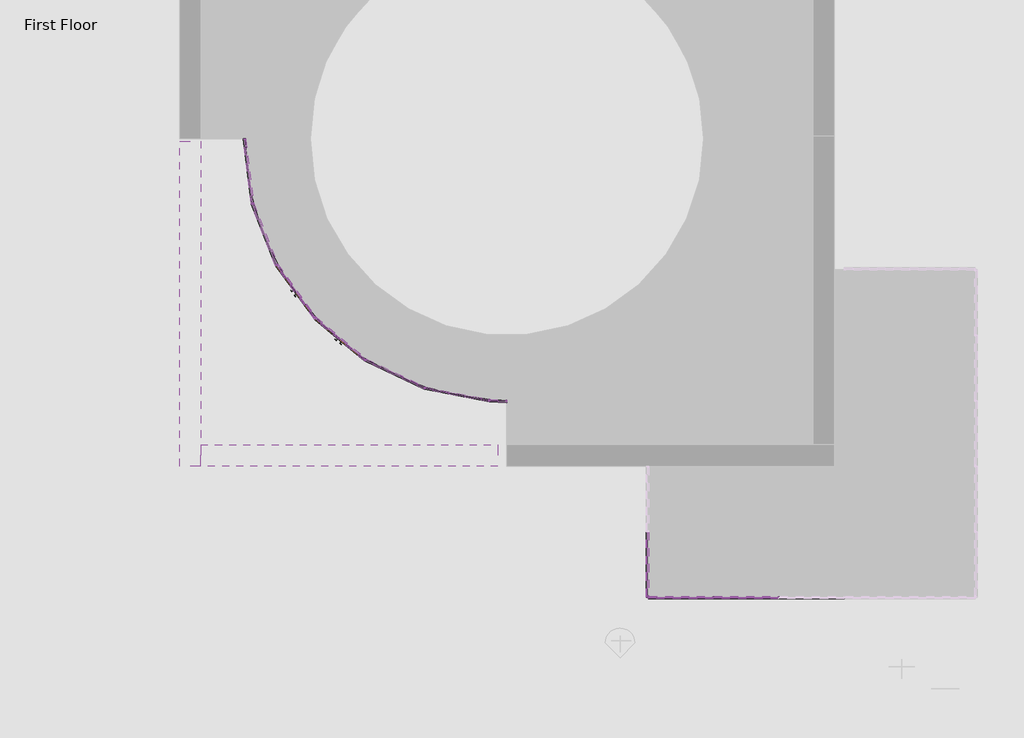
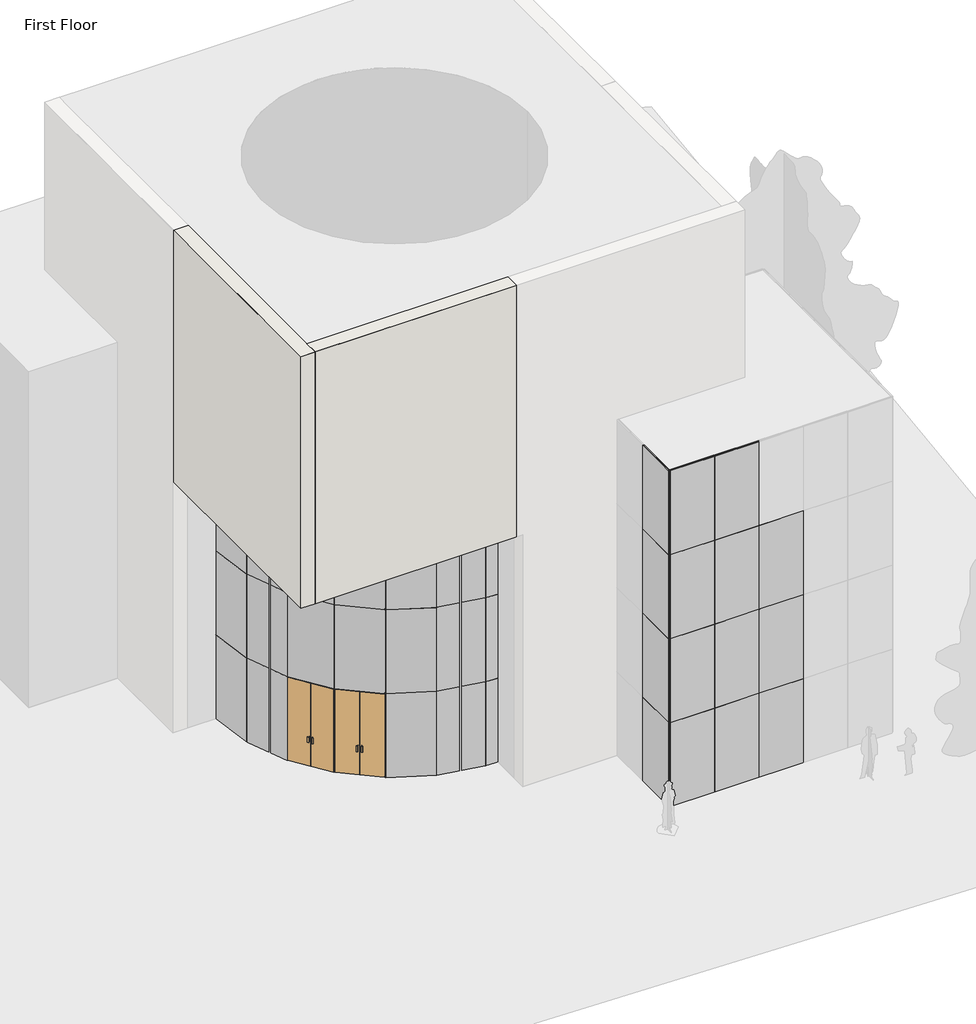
# One storey, part 1 of 4: 83 members, 34 plates, 2 doors, 2 walls.
"""IFC4 building model written with IfcOpenShell, lengths in millimetres."""

from ifc_helpers import new_model, si_unit, frame, origin, place, context, project, spatial, polyline, outline, extrude, faceted_brep, transform, mapped, element, save
from components import curtain_wall_dbl_glass_curtain_wall_dbl_glass_35f7ff88, member_6604d1e0, member_9fd3d903, member_5e617a80, member_cbdb9076, member_74941792, member_7e523723, member_113f7001, member_5d503216, member_77cb5569, member_e23d1186, member_648f3f05, member_8003fc1d, member_cef3a68d, system_panel_glazed_9c75bc08, system_panel_glazed_737b14db

model = new_model("IFC4")

# Units and contexts
model_context = context("Model", 3, world=origin())
ifc_project = project(units=[si_unit("LENGTHUNIT", "METRE", prefix="MILLI")], contexts=[model_context])

# Site, building, storey
site = spatial("IfcSite", under=ifc_project)
building = spatial("IfcBuilding", under=site)
storey = spatial("IfcBuildingStorey", under=building, Name="First Floor", Elevation=0.0)

# Doors
placement = place(None, origin())
curtain_wall_dbl_glass_curtain_wall_dbl_glass_shape = curtain_wall_dbl_glass_curtain_wall_dbl_glass_35f7ff88(model_context)
element("IfcDoor", 1, ObjectType="Curtain Wall Dbl Glass : Curtain Wall Dbl Glass", at=placement, inside=storey, context=model_context, shape_type="MappedRepresentation", body=[
    mapped(curtain_wall_dbl_glass_curtain_wall_dbl_glass_shape, transform((-7598.2638428, -6156.4665271, 25.4), x_axis=(0.5864257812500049, -0.8100029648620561, 0.0), y_axis=(0.8100029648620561, 0.5864257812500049, 0.0), z_axis=(0.0, 0.0, 1.0))),
])
element("IfcDoor", 2, ObjectType="Curtain Wall Dbl Glass : Curtain Wall Dbl Glass", at=placement, inside=storey, context=model_context, shape_type="MappedRepresentation", body=[
    mapped(curtain_wall_dbl_glass_curtain_wall_dbl_glass_shape, transform((-6565.4199097, -7260.7849412, 25.4), x_axis=(0.7690124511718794, -0.6392337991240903, 0.0), y_axis=(0.6392337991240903, 0.7690124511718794, 0.0), z_axis=(0.0, 0.0, 1.0))),
])

# Members
member_shape = member_6604d1e0(model_context)
element("IfcMember", 3, ObjectType="Rectangular Mullion : 1\" Square", at=placement, inside=storey, context=model_context, shape_type="MappedRepresentation", body=[
    mapped(member_shape, transform((2120.1240488, -13277.6534489, 0.0), x_axis=(0.0, 0.0, -1.0), y_axis=(0.0, -1.0, 0.0), z_axis=(-1.0, 0.0, 0.0))),
])
element("IfcMember", 4, ObjectType="Rectangular Mullion : 1\" Square", at=placement, inside=storey, context=model_context, shape_type="MappedRepresentation", body=[
    mapped(member_shape, transform((3644.1240488, -13277.6534489, 0.0), x_axis=(0.0, 0.0, -1.0), y_axis=(0.0, -1.0, 0.0), z_axis=(-1.0, 0.0, 0.0))),
])
member_2_shape = member_9fd3d903(model_context)
element("IfcMember", 5, ObjectType="Rectangular Mullion : 1\" Square", at=placement, inside=storey, context=model_context, shape_type="MappedRepresentation", body=[
    mapped(member_2_shape, transform((3618.7240488, -13277.6534489, 9144.0), x_axis=(0.0, 0.0, 1.0), y_axis=(0.0, -1.0, 0.0), z_axis=(1.0, 0.0, 0.0))),
])
element("IfcMember", 6, ObjectType="Rectangular Mullion : 1\" Square", at=placement, inside=storey, context=model_context, shape_type="MappedRepresentation", body=[
    mapped(member_2_shape, transform((3618.7240488, -13277.6534489, 6096.0), x_axis=(0.0, 0.0, 1.0), y_axis=(0.0, -1.0, 0.0), z_axis=(1.0, 0.0, 0.0))),
])
element("IfcMember", 7, ObjectType="Rectangular Mullion : 1\" Square", at=placement, inside=storey, context=model_context, shape_type="MappedRepresentation", body=[
    mapped(member_2_shape, transform((3618.7240488, -13277.6534489, 3048.0), x_axis=(0.0, 0.0, 1.0), y_axis=(0.0, -1.0, 0.0), z_axis=(1.0, 0.0, 0.0))),
])
member_3_shape = member_5e617a80(model_context)
element("IfcMember", 8, ObjectType="Rectangular Mullion : 1\" Square", at=placement, inside=storey, context=model_context, shape_type="MappedRepresentation", body=[
    mapped(member_3_shape, transform((2094.7240488, -13277.6534489, 9144.0), x_axis=(0.0, 0.0, 1.0), y_axis=(0.0, -1.0, 0.0), z_axis=(1.0, 0.0, 0.0))),
])
element("IfcMember", 9, ObjectType="Rectangular Mullion : 1\" Square", at=placement, inside=storey, context=model_context, shape_type="MappedRepresentation", body=[
    mapped(member_3_shape, transform((2094.7240488, -13277.6534489, 6096.0), x_axis=(0.0, 0.0, 1.0), y_axis=(0.0, -1.0, 0.0), z_axis=(1.0, 0.0, 0.0))),
])
element("IfcMember", 10, ObjectType="Rectangular Mullion : 1\" Square", at=placement, inside=storey, context=model_context, shape_type="MappedRepresentation", body=[
    mapped(member_3_shape, transform((2094.7240488, -13277.6534489, 3048.0), x_axis=(0.0, 0.0, 1.0), y_axis=(0.0, -1.0, 0.0), z_axis=(1.0, 0.0, 0.0))),
])
element("IfcMember", 11, ObjectType="Rectangular Mullion : 1\" Square", at=placement, inside=storey, context=model_context, shape_type="MappedRepresentation", body=[
    mapped(member_3_shape, transform((583.4240488, -13252.2534489, 6096.0), x_axis=(0.0, 0.0, 1.0), y_axis=(-1.0, 0.0, 0.0), z_axis=(0.0, -1.0, 0.0))),
])
element("IfcMember", 12, ObjectType="Rectangular Mullion : 1\" Square", at=placement, inside=storey, context=model_context, shape_type="MappedRepresentation", body=[
    mapped(member_3_shape, transform((583.4240488, -13252.2534489, 9144.0), x_axis=(0.0, 0.0, 1.0), y_axis=(-1.0, 0.0, 0.0), z_axis=(0.0, -1.0, 0.0))),
])
element("IfcMember", 13, ObjectType="Rectangular Mullion : 1\" Square", at=placement, inside=storey, context=model_context, shape_type="MappedRepresentation", body=[
    mapped(member_3_shape, transform((583.4240488, -13252.2534489, 3048.0), x_axis=(0.0, 0.0, 1.0), y_axis=(-1.0, 0.0, 0.0), z_axis=(0.0, -1.0, 0.0))),
])
member_4_shape = member_cbdb9076(model_context)
element("IfcMember", 14, ObjectType="Rectangular Mullion : 1\" Square", at=placement, inside=storey, context=model_context, shape_type="MappedRepresentation", body=[
    mapped(member_4_shape, transform((3631.4240488, -13277.6534489, 9144.0), x_axis=(1.0, 0.0, 0.0), y_axis=(0.0, -1.0, 0.0), z_axis=(0.0, 0.0, -1.0))),
])
element("IfcMember", 15, ObjectType="Rectangular Mullion : 1\" Square", at=placement, inside=storey, context=model_context, shape_type="MappedRepresentation", body=[
    mapped(member_4_shape, transform((2107.4240488, -13277.6534489, 9144.0), x_axis=(1.0, 0.0, 0.0), y_axis=(0.0, -1.0, 0.0), z_axis=(0.0, 0.0, -1.0))),
])
element("IfcMember", 16, ObjectType="Rectangular Mullion : 1\" Square", at=placement, inside=storey, context=model_context, shape_type="MappedRepresentation", body=[
    mapped(member_4_shape, transform((-5979.4324219, -7747.8810962, 6096.0), x_axis=(0.842885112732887, -0.538093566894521, 0.0), y_axis=(-0.538093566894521, -0.842885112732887, 0.0), z_axis=(0.0, 0.0, -1.0))),
])
element("IfcMember", 17, ObjectType="Rectangular Mullion : 1\" Square", at=placement, inside=storey, context=model_context, shape_type="MappedRepresentation", body=[
    mapped(member_4_shape, transform((-7151.4073975, -6773.6887863, 6096.0), x_axis=(0.683076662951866, -0.7303466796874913, 0.0), y_axis=(-0.7303466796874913, -0.683076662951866, 0.0), z_axis=(0.0, 0.0, -1.0))),
])
element("IfcMember", 18, ObjectType="Rectangular Mullion : 1\" Square", at=placement, inside=storey, context=model_context, shape_type="MappedRepresentation", body=[
    mapped(member_4_shape, transform((-8045.1202881, -5539.2442678, 6096.0), x_axis=(0.4805759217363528, -0.8769531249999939, 0.0), y_axis=(-0.8769531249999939, -0.4805759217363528, 0.0), z_axis=(0.0, 0.0, -1.0))),
])
element("IfcMember", 19, ObjectType="Rectangular Mullion : 1\" Square", at=placement, inside=storey, context=model_context, shape_type="MappedRepresentation", body=[
    mapped(member_4_shape, transform((-8604.7140381, -4121.7003232, 6096.0), x_axis=(0.24803918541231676, -0.9687499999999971, 0.0), y_axis=(-0.9687499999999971, -0.24803918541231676, 0.0), z_axis=(0.0, 0.0, -1.0))),
])
element("IfcMember", 20, ObjectType="Rectangular Mullion : 1\" Square", at=placement, inside=storey, context=model_context, shape_type="MappedRepresentation", body=[
    mapped(member_4_shape, transform((-3106.5033128, -8692.0322144, 6096.0), x_axis=(0.9977655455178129, -0.06681254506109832, 0.0), y_axis=(-0.06681254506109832, -0.9977655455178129, 0.0), z_axis=(0.0, 0.0, -1.0))),
])
element("IfcMember", 21, ObjectType="Rectangular Mullion : 1\" Square", at=placement, inside=storey, context=model_context, shape_type="MappedRepresentation", body=[
    mapped(member_4_shape, transform((-4602.4437973, -8400.9341781, 6096.0), x_axis=(0.9500132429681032, -0.3122096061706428, 0.0), y_axis=(-0.3122096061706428, -0.9500132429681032, 0.0), z_axis=(0.0, 0.0, -1.0))),
])
element("IfcMember", 22, ObjectType="Rectangular Mullion : 1\" Square", at=placement, inside=storey, context=model_context, shape_type="MappedRepresentation", body=[
    mapped(member_4_shape, transform((3631.4240488, -13277.6534489, 6096.0), x_axis=(1.0, 0.0, 0.0), y_axis=(0.0, -1.0, 0.0), z_axis=(0.0, 0.0, -1.0))),
])
element("IfcMember", 23, ObjectType="Rectangular Mullion : 1\" Square", at=placement, inside=storey, context=model_context, shape_type="MappedRepresentation", body=[
    mapped(member_4_shape, transform((3631.4240488, -13277.6534489, 3048.0), x_axis=(1.0, 0.0, 0.0), y_axis=(0.0, -1.0, 0.0), z_axis=(0.0, 0.0, -1.0))),
])
element("IfcMember", 24, ObjectType="Rectangular Mullion : 1\" Square", at=placement, inside=storey, context=model_context, shape_type="MappedRepresentation", body=[
    mapped(member_4_shape, transform((2107.4240488, -13277.6534489, 6096.0), x_axis=(1.0, 0.0, 0.0), y_axis=(0.0, -1.0, 0.0), z_axis=(0.0, 0.0, -1.0))),
])
element("IfcMember", 25, ObjectType="Rectangular Mullion : 1\" Square", at=placement, inside=storey, context=model_context, shape_type="MappedRepresentation", body=[
    mapped(member_4_shape, transform((2107.4240488, -13277.6534489, 3048.0), x_axis=(1.0, 0.0, 0.0), y_axis=(0.0, -1.0, 0.0), z_axis=(0.0, 0.0, -1.0))),
])
element("IfcMember", 26, ObjectType="Rectangular Mullion : 1\" Square", at=placement, inside=storey, context=model_context, shape_type="MappedRepresentation", body=[
    mapped(member_4_shape, transform((-4602.4437973, -8400.9341781, 3048.0), x_axis=(0.9500132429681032, -0.3122096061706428, 0.0), y_axis=(-0.3122096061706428, -0.9500132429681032, 0.0), z_axis=(0.0, 0.0, -1.0))),
])
element("IfcMember", 27, ObjectType="Rectangular Mullion : 1\" Square", at=placement, inside=storey, context=model_context, shape_type="MappedRepresentation", body=[
    mapped(member_4_shape, transform((-5979.4324219, -7747.8810962, 3048.0), x_axis=(0.8428851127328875, -0.5380935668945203, 0.0), y_axis=(-0.5380935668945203, -0.8428851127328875, 0.0), z_axis=(0.0, 0.0, -1.0))),
])
element("IfcMember", 28, ObjectType="Rectangular Mullion : 1\" Square", at=placement, inside=storey, context=model_context, shape_type="MappedRepresentation", body=[
    mapped(member_4_shape, transform((-7151.4073975, -6773.6887863, 3048.0), x_axis=(0.683076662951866, -0.7303466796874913, 0.0), y_axis=(-0.7303466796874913, -0.683076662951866, 0.0), z_axis=(0.0, 0.0, -1.0))),
])
element("IfcMember", 29, ObjectType="Rectangular Mullion : 1\" Square", at=placement, inside=storey, context=model_context, shape_type="MappedRepresentation", body=[
    mapped(member_4_shape, transform((-8045.1202881, -5539.2442678, 3048.0), x_axis=(0.4805759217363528, -0.8769531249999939, 0.0), y_axis=(-0.8769531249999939, -0.4805759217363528, 0.0), z_axis=(0.0, 0.0, -1.0))),
])
element("IfcMember", 30, ObjectType="Rectangular Mullion : 1\" Square", at=placement, inside=storey, context=model_context, shape_type="MappedRepresentation", body=[
    mapped(member_4_shape, transform((-8604.7140381, -4121.7003232, 3048.0), x_axis=(0.24803918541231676, -0.9687499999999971, 0.0), y_axis=(-0.9687499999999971, -0.24803918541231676, 0.0), z_axis=(0.0, 0.0, -1.0))),
])
element("IfcMember", 31, ObjectType="Rectangular Mullion : 1\" Square", at=placement, inside=storey, context=model_context, shape_type="MappedRepresentation", body=[
    mapped(member_4_shape, transform((-3106.5033128, -8692.0322144, 3048.0), x_axis=(0.9977655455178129, -0.06681254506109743, 0.0), y_axis=(-0.06681254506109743, -0.9977655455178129, 0.0), z_axis=(0.0, 0.0, -1.0))),
])
element("IfcMember", 32, ObjectType="Rectangular Mullion : 1\" Square", at=placement, inside=storey, context=model_context, shape_type="MappedRepresentation", body=[
    mapped(member_shape, transform((3618.7240488, -13277.6534489, 12192.0), x_axis=(0.0, 0.0, 1.0), y_axis=(0.0, -1.0, 0.0), z_axis=(1.0, 0.0, 0.0))),
])
member_5_shape = member_74941792(model_context)
element("IfcMember", 33, ObjectType="Rectangular Mullion : 1\" Square", at=placement, inside=storey, context=model_context, shape_type="MappedRepresentation", body=[
    mapped(member_5_shape, transform((608.8240488, -13277.6534489, 0.0), x_axis=(0.0, 0.0, -1.0), y_axis=(0.0, -1.0, 0.0), z_axis=(-1.0, 0.0, 0.0))),
])
element("IfcMember", 34, ObjectType="Rectangular Mullion : 1\" Square", at=placement, inside=storey, context=model_context, shape_type="MappedRepresentation", body=[
    mapped(member_5_shape, transform((2094.7240488, -13277.6534489, 12192.0), x_axis=(0.0, 0.0, 1.0), y_axis=(0.0, -1.0, 0.0), z_axis=(1.0, 0.0, 0.0))),
])
element("IfcMember", 35, ObjectType="Rectangular Mullion : 1\" Square", at=placement, inside=storey, context=model_context, shape_type="MappedRepresentation", body=[
    mapped(member_5_shape, transform((583.4240488, -13252.2534489, 12192.0), x_axis=(0.0, 0.0, 1.0), y_axis=(-1.0, 0.0, 0.0), z_axis=(0.0, -1.0, 0.0))),
])
element("IfcMember", 36, ObjectType="Rectangular Mullion : 1\" Square", at=placement, inside=storey, context=model_context, shape_type="MappedRepresentation", body=[
    mapped(member_4_shape, transform((2107.4240488, -13277.6534489, 0.0), x_axis=(1.0, 0.0, 0.0), y_axis=(0.0, -1.0, 0.0), z_axis=(0.0, 0.0, -1.0))),
])
element("IfcMember", 37, ObjectType="Rectangular Mullion : 1\" Square", at=placement, inside=storey, context=model_context, shape_type="MappedRepresentation", body=[
    mapped(member_4_shape, transform((3631.4240488, -13277.6534489, 0.0), x_axis=(1.0, 0.0, 0.0), y_axis=(0.0, -1.0, 0.0), z_axis=(0.0, 0.0, -1.0))),
])
element("IfcMember", 38, ObjectType="Rectangular Mullion : 1\" Square", at=placement, inside=storey, context=model_context, shape_type="MappedRepresentation", body=[
    mapped(member_4_shape, transform((-8045.1202881, -5539.2442678, 0.0), x_axis=(0.480575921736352, -0.8769531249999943, 0.0), y_axis=(-0.8769531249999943, -0.480575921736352, 0.0), z_axis=(0.0, 0.0, -1.0))),
])
element("IfcMember", 39, ObjectType="Rectangular Mullion : 1\" Square", at=placement, inside=storey, context=model_context, shape_type="MappedRepresentation", body=[
    mapped(member_4_shape, transform((-5979.4324219, -7747.8810962, 0.0), x_axis=(0.8428851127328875, -0.5380935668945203, 0.0), y_axis=(-0.5380935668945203, -0.8428851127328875, 0.0), z_axis=(0.0, 0.0, -1.0))),
])
element("IfcMember", 40, ObjectType="Rectangular Mullion : 1\" Square", at=placement, inside=storey, context=model_context, shape_type="MappedRepresentation", body=[
    mapped(member_4_shape, transform((-7151.4073975, -6773.6887863, 0.0), x_axis=(0.683076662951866, -0.7303466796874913, 0.0), y_axis=(-0.7303466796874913, -0.683076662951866, 0.0), z_axis=(0.0, 0.0, -1.0))),
])
element("IfcMember", 41, ObjectType="Rectangular Mullion : 1\" Square", at=placement, inside=storey, context=model_context, shape_type="MappedRepresentation", body=[
    mapped(member_4_shape, transform((-8604.7140381, -4121.7003232, 0.0), x_axis=(0.24803918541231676, -0.9687499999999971, 0.0), y_axis=(-0.9687499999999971, -0.24803918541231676, 0.0), z_axis=(0.0, 0.0, -1.0))),
])
element("IfcMember", 42, ObjectType="Rectangular Mullion : 1\" Square", at=placement, inside=storey, context=model_context, shape_type="MappedRepresentation", body=[
    mapped(member_4_shape, transform((-3106.5033128, -8692.0322144, 0.0), x_axis=(0.9977655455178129, -0.06681254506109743, 0.0), y_axis=(-0.06681254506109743, -0.9977655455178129, 0.0), z_axis=(0.0, 0.0, -1.0))),
])
element("IfcMember", 43, ObjectType="Rectangular Mullion : 1\" Square", at=placement, inside=storey, context=model_context, shape_type="MappedRepresentation", body=[
    mapped(member_4_shape, transform((-4602.4437973, -8400.9341781, 0.0), x_axis=(0.9500132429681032, -0.3122096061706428, 0.0), y_axis=(-0.3122096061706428, -0.9500132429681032, 0.0), z_axis=(0.0, 0.0, -1.0))),
])
member_6_shape = member_7e523723(model_context)
element("IfcMember", 44, ObjectType="Rectangular Mullion : 1\" Square", at=placement, inside=storey, context=model_context, shape_type="MappedRepresentation", body=[
    mapped(member_6_shape, transform((583.4240488, -13277.6534489, 9144.0), x_axis=(-1.0, 0.0, 0.0), y_axis=(0.0, -1.0, 0.0), z_axis=(0.0, 0.0, 1.0))),
])
element("IfcMember", 45, ObjectType="Rectangular Mullion : 1\" Square", at=placement, inside=storey, context=model_context, shape_type="MappedRepresentation", body=[
    mapped(member_6_shape, transform((583.4240488, -13277.6534489, 6096.0), x_axis=(-1.0, 0.0, 0.0), y_axis=(0.0, -1.0, 0.0), z_axis=(0.0, 0.0, 1.0))),
])
element("IfcMember", 46, ObjectType="Rectangular Mullion : 1\" Square", at=placement, inside=storey, context=model_context, shape_type="MappedRepresentation", body=[
    mapped(member_6_shape, transform((-8795.2140381, -2609.6534489, 6096.0), x_axis=(-0.12500000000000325, 0.9921567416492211, 0.0), y_axis=(-0.9921567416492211, -0.12500000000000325, 0.0), z_axis=(0.0, 0.0, 1.0))),
])
element("IfcMember", 47, ObjectType="Rectangular Mullion : 1\" Square", at=placement, inside=storey, context=model_context, shape_type="MappedRepresentation", body=[
    mapped(member_6_shape, transform((583.4240488, -13277.6534489, 3048.0), x_axis=(-1.0, 0.0, 0.0), y_axis=(0.0, -1.0, 0.0), z_axis=(0.0, 0.0, 1.0))),
])
element("IfcMember", 48, ObjectType="Rectangular Mullion : 1\" Square", at=placement, inside=storey, context=model_context, shape_type="MappedRepresentation", body=[
    mapped(member_6_shape, transform((-8795.2140381, -2609.6534489, 3048.0), x_axis=(-0.12500000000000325, 0.9921567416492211, 0.0), y_axis=(-0.9921567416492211, -0.12500000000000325, 0.0), z_axis=(0.0, 0.0, 1.0))),
])
element("IfcMember", 49, ObjectType="Rectangular Mullion : 1\" Square", at=placement, inside=storey, context=model_context, shape_type="MappedRepresentation", body=[
    mapped(member_6_shape, transform((583.4240488, -13277.6534489, 3048.0), x_axis=(0.0, -1.0, 0.0), y_axis=(-1.0, 0.0, 0.0), z_axis=(0.0, 0.0, -1.0))),
])
element("IfcMember", 50, ObjectType="Rectangular Mullion : 1\" Square", at=placement, inside=storey, context=model_context, shape_type="MappedRepresentation", body=[
    mapped(member_6_shape, transform((583.4240488, -13277.6534489, 6096.0), x_axis=(0.0, -1.0, 0.0), y_axis=(-1.0, 0.0, 0.0), z_axis=(0.0, 0.0, -1.0))),
])
element("IfcMember", 51, ObjectType="Rectangular Mullion : 1\" Square", at=placement, inside=storey, context=model_context, shape_type="MappedRepresentation", body=[
    mapped(member_6_shape, transform((-2699.2140381, -8705.6534489, 3048.0), x_axis=(0.9994412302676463, -0.0334249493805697, 0.0), y_axis=(-0.0334249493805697, -0.9994412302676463, 0.0), z_axis=(0.0, 0.0, -1.0))),
])
element("IfcMember", 52, ObjectType="Rectangular Mullion : 1\" Square", at=placement, inside=storey, context=model_context, shape_type="MappedRepresentation", body=[
    mapped(member_6_shape, transform((583.4240488, -13277.6534489, 9144.0), x_axis=(0.0, -1.0, 0.0), y_axis=(-1.0, 0.0, 0.0), z_axis=(0.0, 0.0, -1.0))),
])
element("IfcMember", 53, ObjectType="Rectangular Mullion : 1\" Square", at=placement, inside=storey, context=model_context, shape_type="MappedRepresentation", body=[
    mapped(member_6_shape, transform((-2699.2140381, -8705.6534489, 6096.0), x_axis=(0.9994412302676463, -0.03342494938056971, 0.0), y_axis=(-0.03342494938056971, -0.9994412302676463, 0.0), z_axis=(0.0, 0.0, -1.0))),
])
element("IfcMember", 54, ObjectType="Rectangular Mullion : 1\" Square", at=placement, inside=storey, context=model_context, shape_type="MappedRepresentation", body=[
    mapped(member_6_shape, transform((583.4240488, -13277.6534489, 0.0), x_axis=(0.0, -1.0, 0.0), y_axis=(-1.0, 0.0, 0.0), z_axis=(0.0, 0.0, -1.0))),
])
element("IfcMember", 55, ObjectType="Rectangular Mullion : 1\" Square", at=placement, inside=storey, context=model_context, shape_type="MappedRepresentation", body=[
    mapped(member_6_shape, transform((-2699.2140381, -8705.6534489, 0.0), x_axis=(0.9994412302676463, -0.0334249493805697, 0.0), y_axis=(-0.0334249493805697, -0.9994412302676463, 0.0), z_axis=(0.0, 0.0, -1.0))),
])
element("IfcMember", 56, ObjectType="Rectangular Mullion : 1\" Square", at=placement, inside=storey, context=model_context, shape_type="MappedRepresentation", body=[
    mapped(member_6_shape, transform((583.4240488, -13277.6534489, 12192.0), x_axis=(-1.0, 0.0, 0.0), y_axis=(0.0, -1.0, 0.0), z_axis=(0.0, 0.0, 1.0))),
])
element("IfcMember", 57, ObjectType="Rectangular Mullion : 1\" Square", at=placement, inside=storey, context=model_context, shape_type="MappedRepresentation", body=[
    mapped(member_6_shape, transform((-8795.2140381, -2609.6534489, 9144.0), x_axis=(-0.12500000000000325, 0.9921567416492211, 0.0), y_axis=(-0.9921567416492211, -0.12500000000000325, 0.0), z_axis=(0.0, 0.0, 1.0))),
])
member_7_shape = member_113f7001(model_context)
element("IfcMember", 58, ObjectType="Rectangular Mullion : 1\" Square", at=placement, inside=storey, context=model_context, shape_type="MappedRepresentation", body=[
    mapped(member_7_shape, transform((-3118.9694835, -8689.6063975, 9144.0), x_axis=(0.0, 0.0, 1.0), y_axis=(-0.19100921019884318, -0.9815882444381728, 0.0), z_axis=(0.9815882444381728, -0.19100921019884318, 0.0))),
])
element("IfcMember", 59, ObjectType="Rectangular Mullion : 1\" Square", at=placement, inside=storey, context=model_context, shape_type="MappedRepresentation", body=[
    mapped(member_7_shape, transform((-4613.9187025, -8395.4920691, 9144.0), x_axis=(0.0, 0.0, 1.0), y_axis=(-0.4285125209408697, -0.9035358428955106, 0.0), z_axis=(0.9035358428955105, -0.42851252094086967, 0.0))),
])
element("IfcMember", 60, ObjectType="Rectangular Mullion : 1\" Square", at=placement, inside=storey, context=model_context, shape_type="MappedRepresentation", body=[
    mapped(member_7_shape, transform((-5989.19888, -7739.7628269, 9144.0), x_axis=(0.0, 0.0, 1.0), y_axis=(-0.6392337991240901, -0.7690124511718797, 0.0), z_axis=(0.7690124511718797, -0.6392337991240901, 0.0))),
])
element("IfcMember", 61, ObjectType="Rectangular Mullion : 1\" Square", at=placement, inside=storey, context=model_context, shape_type="MappedRepresentation", body=[
    mapped(member_7_shape, transform((-7158.8550049, -6763.4017486, 9144.0), x_axis=(0.0, 0.0, 1.0), y_axis=(-0.8100029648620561, -0.5864257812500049, 0.0), z_axis=(0.5864257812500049, -0.8100029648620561, 0.0))),
])
element("IfcMember", 62, ObjectType="Rectangular Mullion : 1\" Square", at=placement, inside=storey, context=model_context, shape_type="MappedRepresentation", body=[
    mapped(member_7_shape, transform((-8049.7835694, -5527.4314016, 9144.0), x_axis=(0.0, 0.0, 1.0), y_axis=(-0.9301469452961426, -0.36718750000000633, 0.0), z_axis=(0.36718750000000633, -0.9301469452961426, 0.0))),
])
member_8_shape = member_5d503216(model_context)
element("IfcMember", 63, ObjectType="Rectangular Mullion : 1\" Square", at=placement, inside=storey, context=model_context, shape_type="MappedRepresentation", body=[
    mapped(member_8_shape, transform((-8606.3015381, -4109.0999326, 9144.0), x_axis=(0.0, 0.0, 1.0), y_axis=(-0.9921567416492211, -0.1250000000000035, 0.0), z_axis=(0.1250000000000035, -0.9921567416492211, 0.0))),
])
member_9_shape = member_77cb5569(model_context)
element("IfcMember", 64, ObjectType="Rectangular Mullion : 1\" Square", at=placement, inside=storey, context=model_context, shape_type="MappedRepresentation", body=[
    mapped(member_9_shape, transform((-3093.8104092, -8692.4567113, 0.0), x_axis=(0.0, 0.0, -1.0), y_axis=(-0.03342494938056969, -0.9994412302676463, 0.0), z_axis=(-0.9994412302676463, 0.03342494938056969, 0.0))),
])
element("IfcMember", 65, ObjectType="Rectangular Mullion : 1\" Square", at=placement, inside=storey, context=model_context, shape_type="MappedRepresentation", body=[
    mapped(member_7_shape, transform((-4589.9776266, -8403.359995, 0.0), x_axis=(0.0, 0.0, -1.0), y_axis=(-0.19100921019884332, -0.9815882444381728, 0.0), z_axis=(-0.9815882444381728, 0.19100921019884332, 0.0))),
])
element("IfcMember", 66, ObjectType="Rectangular Mullion : 1\" Square", at=placement, inside=storey, context=model_context, shape_type="MappedRepresentation", body=[
    mapped(member_7_shape, transform((-5967.9575167, -7753.3232052, 0.0), x_axis=(0.0, 0.0, -1.0), y_axis=(-0.42851252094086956, -0.9035358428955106, 0.0), z_axis=(-0.9035358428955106, 0.42851252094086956, 0.0))),
])
element("IfcMember", 67, ObjectType="Rectangular Mullion : 1\" Square", at=placement, inside=storey, context=model_context, shape_type="MappedRepresentation", body=[
    mapped(member_7_shape, transform((-7141.6409394, -6781.8070555, 0.0), x_axis=(0.0, 0.0, -1.0), y_axis=(-0.6392337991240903, -0.7690124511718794, 0.0), z_axis=(-0.7690124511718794, 0.6392337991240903, 0.0))),
])
element("IfcMember", 68, ObjectType="Rectangular Mullion : 1\" Square", at=placement, inside=storey, context=model_context, shape_type="MappedRepresentation", body=[
    mapped(member_7_shape, transform((-8037.6726807, -5549.5313055, 0.0), x_axis=(0.0, 0.0, -1.0), y_axis=(-0.8100029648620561, -0.5864257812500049, 0.0), z_axis=(-0.5864257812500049, 0.8100029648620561, 0.0))),
])
element("IfcMember", 69, ObjectType="Rectangular Mullion : 1\" Square", at=placement, inside=storey, context=model_context, shape_type="MappedRepresentation", body=[
    mapped(member_7_shape, transform((-8600.0507569, -4133.5131894, 0.0), x_axis=(0.0, 0.0, -1.0), y_axis=(-0.9301469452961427, -0.3671875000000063, 0.0), z_axis=(-0.3671875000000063, 0.9301469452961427, 0.0))),
])
member_10_shape = member_e23d1186(model_context)
element("IfcMember", 70, ObjectType="Rectangular Mullion : 1\" Square", at=placement, inside=storey, context=model_context, shape_type="MappedRepresentation", body=[
    mapped(member_10_shape, transform((-8606.3015381, -4109.0999326, 3048.0), x_axis=(0.0, 0.0, 1.0), y_axis=(-0.9921567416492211, -0.12500000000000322, 0.0), z_axis=(0.12500000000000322, -0.9921567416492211, 0.0))),
])
element("IfcMember", 71, ObjectType="Rectangular Mullion : 1\" Square", at=placement, inside=storey, context=model_context, shape_type="MappedRepresentation", body=[
    mapped(member_10_shape, transform((-8606.3015381, -4109.0999326, 6096.0), x_axis=(0.0, 0.0, 1.0), y_axis=(-0.9921567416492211, -0.12500000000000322, 0.0), z_axis=(0.12500000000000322, -0.9921567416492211, 0.0))),
])
member_11_shape = member_648f3f05(model_context)
element("IfcMember", 72, ObjectType="Rectangular Mullion : 1\" Square", at=placement, inside=storey, context=model_context, shape_type="MappedRepresentation", body=[
    mapped(member_11_shape, transform((-4613.9187025, -8395.4920691, 3048.0), x_axis=(0.0, 0.0, 1.0), y_axis=(-0.4285125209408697, -0.9035358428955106, 0.0), z_axis=(0.9035358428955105, -0.42851252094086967, 0.0))),
])
element("IfcMember", 73, ObjectType="Rectangular Mullion : 1\" Square", at=placement, inside=storey, context=model_context, shape_type="MappedRepresentation", body=[
    mapped(member_11_shape, transform((-5989.19888, -7739.7628269, 3048.0), x_axis=(0.0, 0.0, 1.0), y_axis=(-0.6392337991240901, -0.7690124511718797, 0.0), z_axis=(0.7690124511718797, -0.6392337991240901, 0.0))),
])
element("IfcMember", 74, ObjectType="Rectangular Mullion : 1\" Square", at=placement, inside=storey, context=model_context, shape_type="MappedRepresentation", body=[
    mapped(member_11_shape, transform((-7158.8550049, -6763.4017486, 3048.0), x_axis=(0.0, 0.0, 1.0), y_axis=(-0.8100029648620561, -0.5864257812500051, 0.0), z_axis=(0.586425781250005, -0.810002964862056, 0.0))),
])
element("IfcMember", 75, ObjectType="Rectangular Mullion : 1\" Square", at=placement, inside=storey, context=model_context, shape_type="MappedRepresentation", body=[
    mapped(member_11_shape, transform((-8049.7835694, -5527.4314016, 3048.0), x_axis=(0.0, 0.0, 1.0), y_axis=(-0.9301469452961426, -0.36718750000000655, 0.0), z_axis=(0.3671875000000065, -0.9301469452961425, 0.0))),
])
element("IfcMember", 76, ObjectType="Rectangular Mullion : 1\" Square", at=placement, inside=storey, context=model_context, shape_type="MappedRepresentation", body=[
    mapped(member_11_shape, transform((-3118.9694835, -8689.6063975, 3048.0), x_axis=(0.0, 0.0, 1.0), y_axis=(-0.19100921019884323, -0.9815882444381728, 0.0), z_axis=(0.9815882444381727, -0.1910092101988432, 0.0))),
])
element("IfcMember", 77, ObjectType="Rectangular Mullion : 1\" Square", at=placement, inside=storey, context=model_context, shape_type="MappedRepresentation", body=[
    mapped(member_11_shape, transform((-3118.9694835, -8689.6063975, 6096.0), x_axis=(0.0, 0.0, 1.0), y_axis=(-0.19100921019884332, -0.9815882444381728, 0.0), z_axis=(0.9815882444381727, -0.1910092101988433, 0.0))),
])
element("IfcMember", 78, ObjectType="Rectangular Mullion : 1\" Square", at=placement, inside=storey, context=model_context, shape_type="MappedRepresentation", body=[
    mapped(member_11_shape, transform((-8049.7835694, -5527.4314016, 6096.0), x_axis=(0.0, 0.0, 1.0), y_axis=(-0.9301469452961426, -0.36718750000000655, 0.0), z_axis=(0.3671875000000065, -0.9301469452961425, 0.0))),
])
element("IfcMember", 79, ObjectType="Rectangular Mullion : 1\" Square", at=placement, inside=storey, context=model_context, shape_type="MappedRepresentation", body=[
    mapped(member_11_shape, transform((-5989.19888, -7739.7628269, 6096.0), x_axis=(0.0, 0.0, 1.0), y_axis=(-0.6392337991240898, -0.7690124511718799, 0.0), z_axis=(0.7690124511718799, -0.6392337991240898, 0.0))),
])
element("IfcMember", 80, ObjectType="Rectangular Mullion : 1\" Square", at=placement, inside=storey, context=model_context, shape_type="MappedRepresentation", body=[
    mapped(member_11_shape, transform((-7158.8550049, -6763.4017486, 6096.0), x_axis=(0.0, 0.0, 1.0), y_axis=(-0.8100029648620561, -0.5864257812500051, 0.0), z_axis=(0.586425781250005, -0.810002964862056, 0.0))),
])
element("IfcMember", 81, ObjectType="Rectangular Mullion : 1\" Square", at=placement, inside=storey, context=model_context, shape_type="MappedRepresentation", body=[
    mapped(member_11_shape, transform((-4613.9187025, -8395.4920691, 6096.0), x_axis=(0.0, 0.0, 1.0), y_axis=(-0.42851252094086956, -0.9035358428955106, 0.0), z_axis=(0.9035358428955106, -0.42851252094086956, 0.0))),
])
member_12_shape = member_8003fc1d(model_context)
element("IfcMember", 82, ObjectType="Rectangular Mullion : 1\" Square", at=placement, inside=storey, context=model_context, shape_type="MappedRepresentation", body=[
    mapped(member_12_shape, transform((-8792.0390381, -2634.8542302, 0.0), x_axis=(0.0, 0.0, -1.0), y_axis=(-0.9921567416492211, -0.12500000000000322, 0.0), z_axis=(-0.12500000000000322, 0.9921567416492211, 0.0))),
])
element("IfcMember", 83, ObjectType="Rectangular Mullion : 1\" Square", at=placement, inside=storey, context=model_context, shape_type="MappedRepresentation", body=[
    mapped(member_9_shape, transform((-2724.5998454, -8704.8044552, 9144.0), x_axis=(0.0, 0.0, 1.0), y_axis=(-0.03342494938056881, -0.9994412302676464, 0.0), z_axis=(0.9994412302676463, -0.0334249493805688, 0.0))),
])
member_13_shape = member_cef3a68d(model_context)
element("IfcMember", 84, ObjectType="Rectangular Mullion : 1\" Square", at=placement, inside=storey, context=model_context, shape_type="MappedRepresentation", body=[
    mapped(member_13_shape, transform((-2724.5998454, -8704.8044552, 3048.0), x_axis=(0.0, 0.0, 1.0), y_axis=(-0.03342494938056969, -0.9994412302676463, 0.0), z_axis=(0.9994412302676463, -0.03342494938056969, 0.0))),
])
element("IfcMember", 85, ObjectType="Rectangular Mullion : 1\" Square", at=placement, inside=storey, context=model_context, shape_type="MappedRepresentation", body=[
    mapped(member_13_shape, transform((-2724.5998454, -8704.8044552, 6096.0), x_axis=(0.0, 0.0, 1.0), y_axis=(-0.03342494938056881, -0.9994412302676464, 0.0), z_axis=(0.9994412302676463, -0.0334249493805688, 0.0))),
])

# Plates
system_panel_glazed_shape = system_panel_glazed_9c75bc08(model_context)
element("IfcPlate", 86, ObjectType="System Panel : Glazed", at=placement, inside=storey, context=model_context, shape_type="MappedRepresentation", body=[
    mapped(system_panel_glazed_shape, transform((1345.4240488, -13277.6534489, 0.0), x_axis=(1.0, 0.0, 0.0), y_axis=(0.0, 1.0, 0.0), z_axis=(0.0, 0.0, 1.0))),
])
element("IfcPlate", 87, ObjectType="System Panel : Glazed", at=placement, inside=storey, context=model_context, shape_type="MappedRepresentation", body=[
    mapped(system_panel_glazed_shape, transform((2869.4240488, -13277.6534489, 0.0), x_axis=(1.0, 0.0, 0.0), y_axis=(0.0, 1.0, 0.0), z_axis=(0.0, 0.0, 1.0))),
])
element("IfcPlate", 88, ObjectType="System Panel : Glazed", at=placement, inside=storey, context=model_context, shape_type="MappedRepresentation", body=[
    mapped(system_panel_glazed_shape, transform((4393.4240488, -13277.6534489, 0.0), x_axis=(1.0, 0.0, 0.0), y_axis=(0.0, 1.0, 0.0), z_axis=(0.0, 0.0, 1.0))),
])
element("IfcPlate", 89, ObjectType="System Panel : Glazed", at=placement, inside=storey, context=model_context, shape_type="MappedRepresentation", body=[
    mapped(system_panel_glazed_shape, transform((1345.4240488, -13277.6534489, 3048.0), x_axis=(1.0, 0.0, 0.0), y_axis=(0.0, 1.0, 0.0), z_axis=(0.0, 0.0, 1.0))),
])
element("IfcPlate", 90, ObjectType="System Panel : Glazed", at=placement, inside=storey, context=model_context, shape_type="MappedRepresentation", body=[
    mapped(system_panel_glazed_shape, transform((2869.4240488, -13277.6534489, 3048.0), x_axis=(1.0, 0.0, 0.0), y_axis=(0.0, 1.0, 0.0), z_axis=(0.0, 0.0, 1.0))),
])
element("IfcPlate", 91, ObjectType="System Panel : Glazed", at=placement, inside=storey, context=model_context, shape_type="MappedRepresentation", body=[
    mapped(system_panel_glazed_shape, transform((4393.4240488, -13277.6534489, 3048.0), x_axis=(1.0, 0.0, 0.0), y_axis=(0.0, 1.0, 0.0), z_axis=(0.0, 0.0, 1.0))),
])
element("IfcPlate", 92, ObjectType="System Panel : Glazed", at=placement, inside=storey, context=model_context, shape_type="MappedRepresentation", body=[
    mapped(system_panel_glazed_shape, transform((1345.4240488, -13277.6534489, 6096.0), x_axis=(1.0, 0.0, 0.0), y_axis=(0.0, 1.0, 0.0), z_axis=(0.0, 0.0, 1.0))),
])
element("IfcPlate", 93, ObjectType="System Panel : Glazed", at=placement, inside=storey, context=model_context, shape_type="MappedRepresentation", body=[
    mapped(system_panel_glazed_shape, transform((2869.4240488, -13277.6534489, 6096.0), x_axis=(1.0, 0.0, 0.0), y_axis=(0.0, 1.0, 0.0), z_axis=(0.0, 0.0, 1.0))),
])
element("IfcPlate", 94, ObjectType="System Panel : Glazed", at=placement, inside=storey, context=model_context, shape_type="MappedRepresentation", body=[
    mapped(system_panel_glazed_shape, transform((4393.4240488, -13277.6534489, 6096.0), x_axis=(1.0, 0.0, 0.0), y_axis=(0.0, 1.0, 0.0), z_axis=(0.0, 0.0, 1.0))),
])
element("IfcPlate", 95, ObjectType="System Panel : Glazed", at=placement, inside=storey, context=model_context, shape_type="MappedRepresentation", body=[
    mapped(system_panel_glazed_shape, transform((1345.4240488, -13277.6534489, 9144.0), x_axis=(1.0, 0.0, 0.0), y_axis=(0.0, 1.0, 0.0), z_axis=(0.0, 0.0, 1.0))),
])
element("IfcPlate", 96, ObjectType="System Panel : Glazed", at=placement, inside=storey, context=model_context, shape_type="MappedRepresentation", body=[
    mapped(system_panel_glazed_shape, transform((2869.4240488, -13277.6534489, 9144.0), x_axis=(1.0, 0.0, 0.0), y_axis=(0.0, 1.0, 0.0), z_axis=(0.0, 0.0, 1.0))),
])
element("IfcPlate", 97, ObjectType="System Panel : Glazed", at=placement, inside=storey, context=model_context, shape_type="MappedRepresentation", body=[
    mapped(system_panel_glazed_shape, transform((583.4240488, -12515.6534489, 0.0), x_axis=(0.0, -1.0, 0.0), y_axis=(1.0, 0.0, 0.0), z_axis=(0.0, 0.0, 1.0))),
])
element("IfcPlate", 98, ObjectType="System Panel : Glazed", at=placement, inside=storey, context=model_context, shape_type="MappedRepresentation", body=[
    mapped(system_panel_glazed_shape, transform((583.4240488, -12515.6534489, 3048.0), x_axis=(0.0, -1.0, 0.0), y_axis=(1.0, 0.0, 0.0), z_axis=(0.0, 0.0, 1.0))),
])
element("IfcPlate", 99, ObjectType="System Panel : Glazed", at=placement, inside=storey, context=model_context, shape_type="MappedRepresentation", body=[
    mapped(system_panel_glazed_shape, transform((583.4240488, -12515.6534489, 6096.0), x_axis=(0.0, -1.0, 0.0), y_axis=(1.0, 0.0, 0.0), z_axis=(0.0, 0.0, 1.0))),
])
element("IfcPlate", 100, ObjectType="System Panel : Glazed", at=placement, inside=storey, context=model_context, shape_type="MappedRepresentation", body=[
    mapped(system_panel_glazed_shape, transform((583.4240488, -12515.6534489, 9144.0), x_axis=(0.0, -1.0, 0.0), y_axis=(1.0, 0.0, 0.0), z_axis=(0.0, 0.0, 1.0))),
])
element("IfcPlate", 101, ObjectType="System Panel : Glazed", at=placement, inside=storey, context=model_context, shape_type="MappedRepresentation", body=[
    mapped(system_panel_glazed_shape, transform((-8699.9640381, -3365.6768861, 0.0), x_axis=(0.12500000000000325, -0.9921567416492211, 0.0), y_axis=(0.9921567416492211, 0.12500000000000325, 0.0), z_axis=(0.0, 0.0, 1.0))),
])
element("IfcPlate", 102, ObjectType="System Panel : Glazed", at=placement, inside=storey, context=model_context, shape_type="MappedRepresentation", body=[
    mapped(system_panel_glazed_shape, transform((-8324.9171631, -4830.4722955, 0.0), x_axis=(0.36718750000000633, -0.9301469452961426, 0.0), y_axis=(0.9301469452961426, 0.36718750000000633, 0.0), z_axis=(0.0, 0.0, 1.0))),
])
element("IfcPlate", 103, ObjectType="System Panel : Glazed", at=placement, inside=storey, context=model_context, shape_type="MappedRepresentation", body=[
    mapped(system_panel_glazed_shape, transform((-5290.9381096, -8074.4076371, 0.0), x_axis=(0.9035358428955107, -0.4285125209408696, 0.0), y_axis=(0.4285125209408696, 0.9035358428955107, 0.0), z_axis=(0.0, 0.0, 1.0))),
])
element("IfcPlate", 104, ObjectType="System Panel : Glazed", at=placement, inside=storey, context=model_context, shape_type="MappedRepresentation", body=[
    mapped(system_panel_glazed_shape, transform((-3854.4735551, -8546.4831962, 0.0), x_axis=(0.9815882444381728, -0.1910092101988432, 0.0), y_axis=(0.1910092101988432, 0.9815882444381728, 0.0), z_axis=(0.0, 0.0, 1.0))),
])
element("IfcPlate", 105, ObjectType="System Panel : Glazed", at=placement, inside=storey, context=model_context, shape_type="MappedRepresentation", body=[
    mapped(system_panel_glazed_shape, transform((-8699.9640381, -3365.6768861, 3048.0), x_axis=(0.12500000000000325, -0.9921567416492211, 0.0), y_axis=(0.9921567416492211, 0.12500000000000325, 0.0), z_axis=(0.0, 0.0, 1.0))),
])
element("IfcPlate", 106, ObjectType="System Panel : Glazed", at=placement, inside=storey, context=model_context, shape_type="MappedRepresentation", body=[
    mapped(system_panel_glazed_shape, transform((-8324.9171631, -4830.4722955, 3048.0), x_axis=(0.36718750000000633, -0.9301469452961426, 0.0), y_axis=(0.9301469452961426, 0.36718750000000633, 0.0), z_axis=(0.0, 0.0, 1.0))),
])
element("IfcPlate", 107, ObjectType="System Panel : Glazed", at=placement, inside=storey, context=model_context, shape_type="MappedRepresentation", body=[
    mapped(system_panel_glazed_shape, transform((-7598.2638428, -6156.4665271, 3048.0), x_axis=(0.5864257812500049, -0.8100029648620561, 0.0), y_axis=(0.8100029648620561, 0.5864257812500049, 0.0), z_axis=(0.0, 0.0, 1.0))),
])
element("IfcPlate", 108, ObjectType="System Panel : Glazed", at=placement, inside=storey, context=model_context, shape_type="MappedRepresentation", body=[
    mapped(system_panel_glazed_shape, transform((-6565.4199097, -7260.7849412, 3048.0), x_axis=(0.7690124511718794, -0.6392337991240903, 0.0), y_axis=(0.6392337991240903, 0.7690124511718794, 0.0), z_axis=(0.0, 0.0, 1.0))),
])
element("IfcPlate", 109, ObjectType="System Panel : Glazed", at=placement, inside=storey, context=model_context, shape_type="MappedRepresentation", body=[
    mapped(system_panel_glazed_shape, transform((-5290.9381096, -8074.4076371, 3048.0), x_axis=(0.9035358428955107, -0.4285125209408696, 0.0), y_axis=(0.4285125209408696, 0.9035358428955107, 0.0), z_axis=(0.0, 0.0, 1.0))),
])
element("IfcPlate", 110, ObjectType="System Panel : Glazed", at=placement, inside=storey, context=model_context, shape_type="MappedRepresentation", body=[
    mapped(system_panel_glazed_shape, transform((-3854.4735551, -8546.4831962, 3048.0), x_axis=(0.9815882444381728, -0.1910092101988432, 0.0), y_axis=(0.1910092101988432, 0.9815882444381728, 0.0), z_axis=(0.0, 0.0, 1.0))),
])
element("IfcPlate", 111, ObjectType="System Panel : Glazed", at=placement, inside=storey, context=model_context, shape_type="MappedRepresentation", body=[
    mapped(system_panel_glazed_shape, transform((-8699.9640381, -3365.6768861, 6096.0), x_axis=(0.12500000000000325, -0.9921567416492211, 0.0), y_axis=(0.9921567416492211, 0.12500000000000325, 0.0), z_axis=(0.0, 0.0, 1.0))),
])
element("IfcPlate", 112, ObjectType="System Panel : Glazed", at=placement, inside=storey, context=model_context, shape_type="MappedRepresentation", body=[
    mapped(system_panel_glazed_shape, transform((-8324.9171631, -4830.4722955, 6096.0), x_axis=(0.3671875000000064, -0.9301469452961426, 0.0), y_axis=(0.9301469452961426, 0.3671875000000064, 0.0), z_axis=(0.0, 0.0, 1.0))),
])
element("IfcPlate", 113, ObjectType="System Panel : Glazed", at=placement, inside=storey, context=model_context, shape_type="MappedRepresentation", body=[
    mapped(system_panel_glazed_shape, transform((-7598.2638428, -6156.4665271, 6096.0), x_axis=(0.5864257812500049, -0.8100029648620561, 0.0), y_axis=(0.8100029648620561, 0.5864257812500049, 0.0), z_axis=(0.0, 0.0, 1.0))),
])
element("IfcPlate", 114, ObjectType="System Panel : Glazed", at=placement, inside=storey, context=model_context, shape_type="MappedRepresentation", body=[
    mapped(system_panel_glazed_shape, transform((-6565.4199097, -7260.7849412, 6096.0), x_axis=(0.7690124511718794, -0.6392337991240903, 0.0), y_axis=(0.6392337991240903, 0.7690124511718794, 0.0), z_axis=(0.0, 0.0, 1.0))),
])
element("IfcPlate", 115, ObjectType="System Panel : Glazed", at=placement, inside=storey, context=model_context, shape_type="MappedRepresentation", body=[
    mapped(system_panel_glazed_shape, transform((-5290.9381096, -8074.4076371, 6096.0), x_axis=(0.9035358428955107, -0.42851252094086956, 0.0), y_axis=(0.42851252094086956, 0.9035358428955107, 0.0), z_axis=(0.0, 0.0, 1.0))),
])
element("IfcPlate", 116, ObjectType="System Panel : Glazed", at=placement, inside=storey, context=model_context, shape_type="MappedRepresentation", body=[
    mapped(system_panel_glazed_shape, transform((-3854.4735551, -8546.4831962, 6096.0), x_axis=(0.9815882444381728, -0.1910092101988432, 0.0), y_axis=(0.1910092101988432, 0.9815882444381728, 0.0), z_axis=(0.0, 0.0, 1.0))),
])
system_panel_glazed_2_shape = system_panel_glazed_737b14db(model_context)
element("IfcPlate", 117, ObjectType="System Panel : Glazed", at=placement, inside=storey, context=model_context, shape_type="MappedRepresentation", body=[
    mapped(system_panel_glazed_2_shape, transform((-2902.8586755, -8698.8428317, 0.0), x_axis=(0.9994412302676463, -0.0334249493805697, 0.0), y_axis=(0.0334249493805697, 0.9994412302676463, 0.0), z_axis=(0.0, 0.0, 1.0))),
])
element("IfcPlate", 118, ObjectType="System Panel : Glazed", at=placement, inside=storey, context=model_context, shape_type="MappedRepresentation", body=[
    mapped(system_panel_glazed_2_shape, transform((-2902.8586755, -8698.8428317, 3048.0), x_axis=(0.9994412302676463, -0.0334249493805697, 0.0), y_axis=(0.0334249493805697, 0.9994412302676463, 0.0), z_axis=(0.0, 0.0, 1.0))),
])
element("IfcPlate", 119, ObjectType="System Panel : Glazed", at=placement, inside=storey, context=model_context, shape_type="MappedRepresentation", body=[
    mapped(system_panel_glazed_2_shape, transform((-2902.8586755, -8698.8428317, 6096.0), x_axis=(0.9994412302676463, -0.03342494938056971, 0.0), y_axis=(0.03342494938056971, 0.9994412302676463, 0.0), z_axis=(0.0, 0.0, 1.0))),
])

# Walls
element("IfcWall", 120, ObjectType="Exterior - Brick on CMU", at=placement, inside=storey, context=model_context, shape_type="SweptSolid", body=[
    extrude(outline(polyline([(-2908.7640381, -10229.6534489), (-9823.9140381, -10229.6534489), (-9823.9140381, -9734.3534489), (-2908.7640381, -9734.3534489), (-2908.7640381, -10229.6534489)])), frame((0.0, 0.0, 9144.0), z_axis=(0.0, 0.0, 1.0), x_axis=(1.0, 0.0, 0.0)), (0.0, 0.0, 1.0), 9144.0),
])
element("IfcWall", 121, ObjectType="Exterior - Brick on CMU", at=placement, inside=storey, context=model_context, shape_type="Brep", body=[
    faceted_brep([(-10319.2140381, -10229.6534489, 18288.0), (-10319.2140381, -2666.8034489, 18288.0), (-10319.2140381, -2666.8034489, 9144.0), (-10319.2140381, -10229.6534489, 9144.0), (-9823.9140381, -10229.6534489, 18288.0), (-9823.9140381, -10229.6534489, 9144.0), (-9823.9140381, -9734.3534489, 9144.0), (-9823.9140381, -2666.8034489, 9144.0), (-9823.9140381, -2666.8034489, 18288.0), (-9823.9140381, -9734.3534489, 18288.0)], [[[0, 1, 2, 3]], [[4, 5, 6, 7, 8, 9]], [[1, 0, 4, 9, 8]], [[3, 2, 7, 6, 5]], [[2, 1, 8, 7]], [[0, 3, 5, 4]]]),
])

save(model, "model.ifc")
